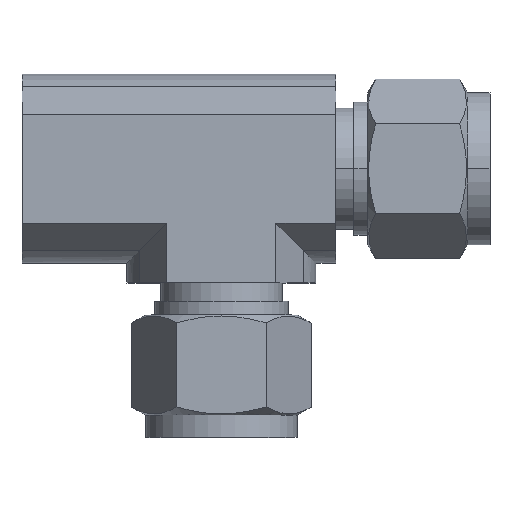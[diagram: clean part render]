
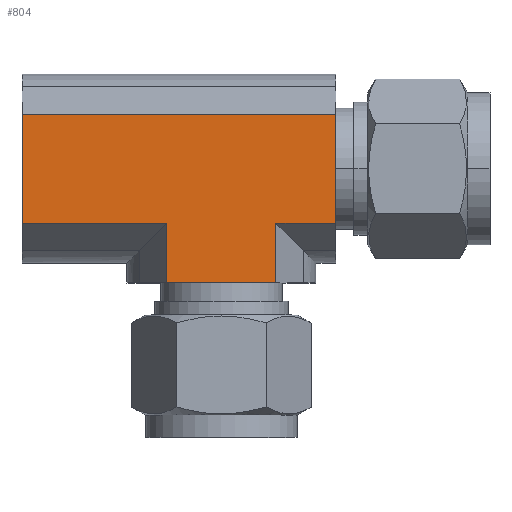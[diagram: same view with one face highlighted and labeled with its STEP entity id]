
A CAD part, top view. The second image highlights one B-rep face of the part: STEP entity #804.
In plain terms, the highlighted planar face has unit normal (0, 0, 1).
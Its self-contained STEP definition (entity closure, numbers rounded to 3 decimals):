
#34 = ORIENTED_EDGE ( 'NONE', *, *, #782, .F. ) ;
#40 = ORIENTED_EDGE ( 'NONE', *, *, #99, .F. ) ;
#41 = ORIENTED_EDGE ( 'NONE', *, *, #833, .F. ) ;
#42 = ORIENTED_EDGE ( 'NONE', *, *, #315, .F. ) ;
#99 = EDGE_CURVE ( 'NONE', #316, #779, #1030, .T. ) ;
#109 = ORIENTED_EDGE ( 'NONE', *, *, #110, .F. ) ;
#110 = EDGE_CURVE ( 'NONE', #738, #800, #892, .T. ) ;
#170 = ORIENTED_EDGE ( 'NONE', *, *, #837, .F. ) ;
#171 = EDGE_CURVE ( 'NONE', #304, #670, #889, .T. ) ;
#172 = ORIENTED_EDGE ( 'NONE', *, *, #802, .T. ) ;
#174 = ORIENTED_EDGE ( 'NONE', *, *, #171, .T. ) ;
#304 = VERTEX_POINT ( 'NONE', #1234 ) ;
#315 = EDGE_CURVE ( 'NONE', #304, #316, #1183, .T. ) ;
#316 = VERTEX_POINT ( 'NONE', #1179 ) ;
#583 = VERTEX_POINT ( 'NONE', #1939 ) ;
#670 = VERTEX_POINT ( 'NONE', #2105 ) ;
#737 = VERTEX_POINT ( 'NONE', #2318 ) ;
#738 = VERTEX_POINT ( 'NONE', #2317 ) ;
#779 = VERTEX_POINT ( 'NONE', #2309 ) ;
#782 = EDGE_CURVE ( 'NONE', #779, #738, #2307, .T. ) ;
#800 = VERTEX_POINT ( 'NONE', #2496 ) ;
#802 = EDGE_CURVE ( 'NONE', #583, #800, #2495, .T. ) ;
#804 = ADVANCED_FACE ( 'NONE', ( #2491 ), #2489, .F. ) ;
#805 = EDGE_LOOP ( 'NONE', ( #34, #40, #42, #174, #41, #170, #172, #109 ) ) ;
#833 = EDGE_CURVE ( 'NONE', #737, #670, #2463, .T. ) ;
#837 = EDGE_CURVE ( 'NONE', #583, #737, #2456, .T. ) ;
#886 = DIRECTION ( 'NONE',  ( 0., 1., 0. ) ) ;
#887 = VECTOR ( 'NONE', #886, 1000. ) ;
#888 = CARTESIAN_POINT ( 'NONE',  ( 7.794, -16.32, 13.5 ) ) ;
#889 = LINE ( 'NONE', #888, #887 ) ;
#892 = LINE ( 'NONE', #893, #1095 ) ;
#893 = CARTESIAN_POINT ( 'NONE',  ( -28.5, -7.794, 13.5 ) ) ;
#1027 = DIRECTION ( 'NONE',  ( 0., 1., 0. ) ) ;
#1028 = VECTOR ( 'NONE', #1027, 1000. ) ;
#1029 = CARTESIAN_POINT ( 'NONE',  ( -7.794, -16.32, 13.5 ) ) ;
#1030 = LINE ( 'NONE', #1029, #1028 ) ;
#1094 = DIRECTION ( 'NONE',  ( 0., 1., 0. ) ) ;
#1095 = VECTOR ( 'NONE', #1094, 1000. ) ;
#1179 = CARTESIAN_POINT ( 'NONE',  ( -7.794, -16.32, 13.5 ) ) ;
#1180 = DIRECTION ( 'NONE',  ( -1., 0., 0. ) ) ;
#1181 = VECTOR ( 'NONE', #1180, 1000. ) ;
#1182 = CARTESIAN_POINT ( 'NONE',  ( 7.794, -16.32, 13.5 ) ) ;
#1183 = LINE ( 'NONE', #1182, #1181 ) ;
#1234 = CARTESIAN_POINT ( 'NONE',  ( 7.794, -16.32, 13.5 ) ) ;
#1939 = CARTESIAN_POINT ( 'NONE',  ( 16.32, 7.794, 13.5 ) ) ;
#2105 = CARTESIAN_POINT ( 'NONE',  ( 7.794, -7.794, 13.5 ) ) ;
#2304 = DIRECTION ( 'NONE',  ( -1., 0., 0. ) ) ;
#2305 = VECTOR ( 'NONE', #2304, 1000. ) ;
#2306 = CARTESIAN_POINT ( 'NONE',  ( 16.32, -7.794, 13.5 ) ) ;
#2307 = LINE ( 'NONE', #2306, #2305 ) ;
#2309 = CARTESIAN_POINT ( 'NONE',  ( -7.794, -7.794, 13.5 ) ) ;
#2317 = CARTESIAN_POINT ( 'NONE',  ( -28.5, -7.794, 13.5 ) ) ;
#2318 = CARTESIAN_POINT ( 'NONE',  ( 16.32, -7.794, 13.5 ) ) ;
#2450 = DIRECTION ( 'NONE',  ( 0., -1., 0. ) ) ;
#2451 = VECTOR ( 'NONE', #2450, 1000. ) ;
#2452 = CARTESIAN_POINT ( 'NONE',  ( 16.32, 7.794, 13.5 ) ) ;
#2456 = LINE ( 'NONE', #2452, #2451 ) ;
#2460 = DIRECTION ( 'NONE',  ( -1., 0., 0. ) ) ;
#2461 = VECTOR ( 'NONE', #2460, 1000. ) ;
#2462 = CARTESIAN_POINT ( 'NONE',  ( 16.32, -7.794, 13.5 ) ) ;
#2463 = LINE ( 'NONE', #2462, #2461 ) ;
#2485 = DIRECTION ( 'NONE',  ( 0., 1., 0. ) ) ;
#2486 = DIRECTION ( 'NONE',  ( 0., 0., -1. ) ) ;
#2487 = CARTESIAN_POINT ( 'NONE',  ( 16.32, 7.794, 13.5 ) ) ;
#2488 = AXIS2_PLACEMENT_3D ( 'NONE', #2487, #2486, #2485 ) ;
#2489 = PLANE ( 'NONE',  #2488 ) ;
#2491 = FACE_OUTER_BOUND ( 'NONE', #805, .T. ) ;
#2492 = DIRECTION ( 'NONE',  ( -1., 0., 0. ) ) ;
#2493 = VECTOR ( 'NONE', #2492, 1000. ) ;
#2494 = CARTESIAN_POINT ( 'NONE',  ( 16.32, 7.794, 13.5 ) ) ;
#2495 = LINE ( 'NONE', #2494, #2493 ) ;
#2496 = CARTESIAN_POINT ( 'NONE',  ( -28.5, 7.794, 13.5 ) ) ;
